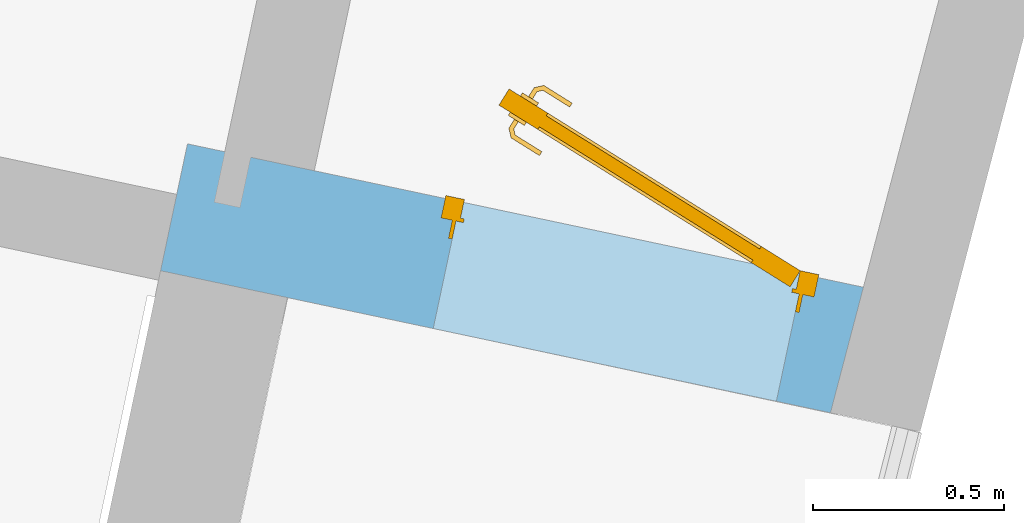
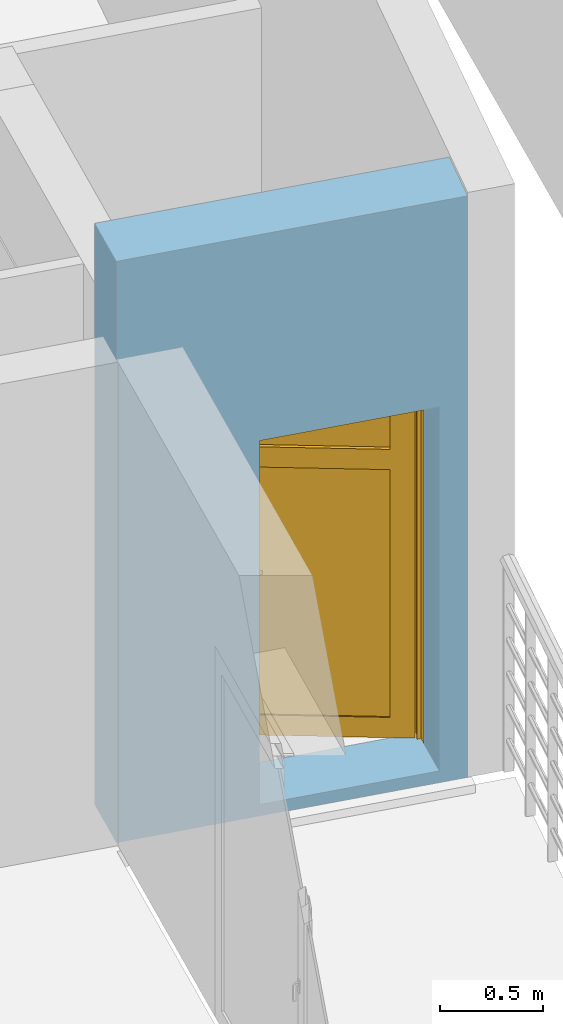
"""IFC2X3 building model written with IfcOpenShell, lengths in metres."""

from ifc_helpers import new_model, entity, si_unit, converted_unit, derived_unit, direction, frame, origin, place, context, subcontext, project, spatial, polyline, outline, extrude, faceted_brep, source, transform, mapped, material, material_list, layer, layer_set, layer_usage, type_object, type_shapes, element, fill, save


model = new_model("IFC2X3")

# Units and contexts
model_context = context("Model", 3, precision=1e-05, world=origin(), true_north=direction((6.12303176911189e-17, 1.0)))
body_context = subcontext(model_context, "Body", "Model", "MODEL_VIEW")
ifc_project = project(units=[si_unit("LENGTHUNIT", "METRE"), si_unit("AREAUNIT", "SQUARE_METRE"), si_unit("VOLUMEUNIT", "CUBIC_METRE"), converted_unit("PLANEANGLEUNIT", "DEGREE", entity("IfcRatioMeasure", 0.0174532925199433), si_unit("PLANEANGLEUNIT", "RADIAN"), dimensions=[0, 0, 0, 0, 0, 0, 0]), si_unit("MASSUNIT", "GRAM", prefix="KILO"), derived_unit("MASSDENSITYUNIT", [(si_unit("MASSUNIT", "GRAM", prefix="KILO"), 1), (si_unit("LENGTHUNIT", "METRE"), -3)]), si_unit("TIMEUNIT", "SECOND"), si_unit("FREQUENCYUNIT", "HERTZ"), si_unit("THERMODYNAMICTEMPERATUREUNIT", "DEGREE_CELSIUS"), derived_unit("THERMALTRANSMITTANCEUNIT", [(si_unit("MASSUNIT", "GRAM", prefix="KILO"), 1), (si_unit("THERMODYNAMICTEMPERATUREUNIT", "KELVIN"), -1), (si_unit("TIMEUNIT", "SECOND"), -3)]), derived_unit("VOLUMETRICFLOWRATEUNIT", [(si_unit("LENGTHUNIT", "METRE"), 3), (si_unit("TIMEUNIT", "SECOND"), -1)]), si_unit("ELECTRICCURRENTUNIT", "AMPERE"), si_unit("ELECTRICVOLTAGEUNIT", "VOLT"), si_unit("POWERUNIT", "WATT"), si_unit("FORCEUNIT", "NEWTON", prefix="KILO"), si_unit("ILLUMINANCEUNIT", "LUX"), si_unit("LUMINOUSFLUXUNIT", "LUMEN"), si_unit("LUMINOUSINTENSITYUNIT", "CANDELA"), derived_unit("USERDEFINED", [(si_unit("MASSUNIT", "GRAM", prefix="KILO"), -1), (si_unit("LENGTHUNIT", "METRE"), -2), (si_unit("TIMEUNIT", "SECOND"), 3), (si_unit("LUMINOUSFLUXUNIT", "LUMEN"), 1)]), derived_unit("LINEARVELOCITYUNIT", [(si_unit("LENGTHUNIT", "METRE"), 1), (si_unit("TIMEUNIT", "SECOND"), -1)]), si_unit("PRESSUREUNIT", "PASCAL"), derived_unit("USERDEFINED", [(si_unit("LENGTHUNIT", "METRE"), -2), (si_unit("MASSUNIT", "GRAM", prefix="KILO"), 1), (si_unit("TIMEUNIT", "SECOND"), -2)])], contexts=[model_context])

# Site, building, storey
site_placement = place(None, origin())
site = spatial("IfcSite", under=ifc_project, at=site_placement, Name="Default", CompositionType="ELEMENT")
building_placement = place(site_placement, origin())
building = spatial("IfcBuilding", under=site, at=building_placement, CompositionType="ELEMENT")
storey_1_placement = place(building_placement, frame((0.0, 0.0, -0.0686871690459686)))
storey_1 = spatial("IfcBuildingStorey", under=building, at=storey_1_placement, Name="RDC", CompositionType="ELEMENT", Elevation=-0.0686871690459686)

# Wall, opening
ifc_material_1 = material(Name="Enduit blanc cassé2")
ifc_layer_1 = layer(ifc_material_1, 0.02)
ifc_material_2 = material(Name="Parpaing")
ifc_layer_2 = layer(ifc_material_2, 0.2)
ifc_material_3 = material(Name="Isolant")
ifc_layer_3 = layer(ifc_material_3, 0.12)
ifc_layer_set = layer_set([ifc_layer_1, ifc_layer_2, ifc_layer_3], Name="Mur de base:Ext. Parpaing 20 + Isolant 12 enduit blanc cassé 2")
ifc_layer_usage = layer_usage(ifc_layer_set, "AXIS2", "POSITIVE", -0.17)
wall_type = type_object("IfcWallType", Name="Mur de base:Ext. Parpaing 20 + Isolant 12 enduit blanc cassé 2", PredefinedType="STANDARD", material=ifc_layer_set)
wall_placement = place(storey_1_placement, frame((-10.9003478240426, 79.0485786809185, 0.0), z_axis=(0.0, 0.0, 1.0), x_axis=(0.978238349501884, -0.207484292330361, 0.0)))
wall = element("IfcWallStandardCase", 1, at=wall_placement, inside=storey_1, type_object=wall_type, material=ifc_layer_usage, Name="Mur de base:Ext. Parpaing 20 + Isolant 12 enduit blanc cassé 2", ObjectType="Mur de base:Ext. Parpaing 20 + Isolant 12 enduit blanc cassé 2", context=body_context, shape_type="SweptSolid", body=[
    extrude(outline(polyline([(1.79590606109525, -0.169999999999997), (1.81218239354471, 0.169999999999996), (0.340000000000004, 0.169999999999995), (0.169999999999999, 0.170000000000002), (0.0, 0.17000000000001), (0.0, 0.0345778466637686), (0.0, -0.17000000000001), (0.34, -0.170000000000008), (1.79590606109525, -0.169999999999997)])), origin(), (0.0, 0.0, 1.0), 3.44868716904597),
])
opening_placement = place(wall_placement, frame((0.770512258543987, -0.656731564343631, 0.0686871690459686), z_axis=(0.0, 0.0, 1.0), x_axis=(0.978238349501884, 0.207484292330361, 0.0)))
opening = element("IfcOpeningElement", 2, at=opening_placement, cuts=wall, Name="Mur de base:Ext. Parpaing 20 + Isolant 12 enduit blanc cassé 2", ObjectType="Opening", context=body_context, shape_type="Brep", body=[
    faceted_brep([(1.09501451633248, 0.919544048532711, 2.15999999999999), (0.195035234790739, 1.11042959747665, 2.15999999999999), (0.134449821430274, 0.824783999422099, 2.15999999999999), (1.03442910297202, 0.633898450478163, 2.15999999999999), (0.899979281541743, 0.0, 0.0), (0.0, 0.190885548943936, 0.0), (0.112041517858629, 0.71913425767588, 0.0), (0.10225913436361, 0.721209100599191, 0.0), (0.112218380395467, 0.768164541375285, 0.0), (0.0828712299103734, 0.774389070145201, 0.0), (0.0953202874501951, 0.833083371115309, 0.0), (0.134449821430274, 0.824783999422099, 0.0), (0.195035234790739, 1.11042959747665, 0.0), (1.09501451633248, 0.919544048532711, 0.0), (1.03442910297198, 0.633898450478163, 0.0), (1.07355863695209, 0.625599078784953, 0.0), (1.06110957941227, 0.566904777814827, 0.0), (1.03176242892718, 0.573129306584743, 0.0), (1.02180318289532, 0.526173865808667, 0.0), (1.01202079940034, 0.528248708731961, 0.0), (0.899979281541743, 0.0, 2.15999999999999), (0.0, 0.190885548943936, 2.15999999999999), (0.112041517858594, 0.719134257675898, 2.15999999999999), (0.112218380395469, 0.768164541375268, 2.16999999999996), (1.03176242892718, 0.573129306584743, 2.16999999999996), (1.06110957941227, 0.566904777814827, 2.2), (0.0828712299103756, 0.774389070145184, 2.2), (0.102259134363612, 0.721209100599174, 2.16999999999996), (1.01202079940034, 0.528248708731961, 2.15999999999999), (1.02180318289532, 0.52617386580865, 2.16999999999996), (0.0953202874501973, 0.833083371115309, 2.2), (1.0735586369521, 0.625599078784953, 2.2)], [[[0, 1, 2, 3]], [[4, 5, 6, 7, 8, 9, 10, 11, 12, 13, 14, 15, 16, 17, 18, 19]], [[13, 0, 3, 14]], [[20, 21, 5, 4]], [[5, 21, 22, 6]], [[1, 0, 13, 12]], [[9, 8, 23, 24, 17, 16, 25, 26]], [[8, 7, 27, 23]], [[7, 6, 22, 28, 19, 18, 29, 27]], [[11, 10, 30, 31, 15, 14, 3, 2]], [[10, 9, 26, 30]], [[24, 23, 27, 29]], [[26, 25, 31, 30]], [[17, 24, 29, 18]], [[25, 16, 15, 31]], [[1, 12, 11, 2]], [[20, 4, 19, 28]], [[21, 20, 28, 22]]]),
])

# Storey
storey_2_placement = place(building_placement, origin())
storey_2 = spatial("IfcBuildingStorey", under=building, at=storey_2_placement, Name="Plan des fondations  Maisons 1 et 2", CompositionType="ELEMENT", Elevation=0.0)

# Door
ifc_material_4 = material(Name="PVC - Blanc")
ifc_material_5 = material(Name="Verre")
ifc_material_list_1 = material_list([ifc_material_4, ifc_material_5])
ifc_material_list_2 = material_list([ifc_material_4, ifc_material_5])
door_style = type_object("IfcDoorStyle", Name="PP Oculus haut (0.90m x 2.15m)", ConstructionType="NOTDEFINED", OperationType="SINGLE_SWING_RIGHT", ParameterTakesPrecedence=False, Sizeable=False, material=ifc_material_list_2)
shared_shape = source(origin(), body_context, "Body", "Brep", [
    faceted_brep([(0.839310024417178, 0.35735227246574, 0.982322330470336), (0.844175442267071, 0.355581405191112, 0.978349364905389), (0.849841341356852, 0.353519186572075, 0.975851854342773), (0.855921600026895, 0.351306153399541, 0.975), (0.862001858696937, 0.349093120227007, 0.975851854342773), (0.867667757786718, 0.34703090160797, 0.978349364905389), (0.872533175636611, 0.345260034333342, 0.982322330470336), (0.876266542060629, 0.34390120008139, 0.9875), (0.878613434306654, 0.343047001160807, 0.993529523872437), (0.879413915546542, 0.342755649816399, 1.0), (0.878613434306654, 0.343047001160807, 1.00647047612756), (0.876266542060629, 0.343901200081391, 1.0125), (0.872533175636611, 0.345260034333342, 1.01767766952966), (0.867667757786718, 0.34703090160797, 1.02165063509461), (0.862001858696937, 0.349093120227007, 1.02414814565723), (0.855921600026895, 0.351306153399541, 1.025), (0.849841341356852, 0.353519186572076, 1.02414814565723), (0.844175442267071, 0.355581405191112, 1.02165063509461), (0.839310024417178, 0.35735227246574, 1.01767766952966), (0.83557665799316, 0.358711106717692, 1.0125), (0.833229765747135, 0.359565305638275, 1.00647047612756), (0.832429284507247, 0.359856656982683, 1.0), (0.833229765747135, 0.359565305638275, 0.993529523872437), (0.83557665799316, 0.358711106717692, 0.9875), (0.859341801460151, 0.3607030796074, 1.025), (0.865422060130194, 0.358490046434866, 1.02414814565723), (0.871087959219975, 0.356427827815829, 1.02165063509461), (0.875953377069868, 0.354656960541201, 1.01767766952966), (0.879686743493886, 0.35329812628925, 1.0125), (0.88203363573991, 0.352443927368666, 1.00647047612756), (0.882834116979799, 0.352152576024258, 1.0), (0.882033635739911, 0.352443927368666, 0.993529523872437), (0.879686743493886, 0.35329812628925, 0.9875), (0.875953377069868, 0.354656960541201, 0.982322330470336), (0.871087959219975, 0.356427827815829, 0.978349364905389), (0.865422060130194, 0.358490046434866, 0.975851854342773), (0.859341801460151, 0.3607030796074, 0.975), (0.853261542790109, 0.362916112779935, 0.975851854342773), (0.847595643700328, 0.364978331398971, 0.978349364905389), (0.842730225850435, 0.3667491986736, 0.982322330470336), (0.838996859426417, 0.368108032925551, 0.9875), (0.836649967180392, 0.368962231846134, 0.993529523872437), (0.835849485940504, 0.369253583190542, 1.0), (0.836649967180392, 0.368962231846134, 1.00647047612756), (0.838996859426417, 0.368108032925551, 1.0125), (0.842730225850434, 0.3667491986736, 1.01767766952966), (0.847595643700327, 0.364978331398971, 1.02165063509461), (0.853261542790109, 0.362916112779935, 1.02414814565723)], [[[0, 1, 2, 3, 4, 5, 6, 7, 8, 9, 10, 11, 12, 13, 14, 15, 16, 17, 18, 19, 20, 21, 22, 23]], [[24, 25, 26, 27, 28, 29, 30, 31, 32, 33, 34, 35, 36, 37, 38, 39, 40, 41, 42, 43, 44, 45, 46, 47]], [[30, 9, 8, 31]], [[31, 8, 7, 32]], [[34, 33, 6, 5]], [[6, 33, 32, 7]], [[35, 34, 5, 4]], [[35, 4, 3, 36]], [[36, 3, 2, 37]], [[37, 2, 1, 38]], [[40, 39, 0, 23]], [[0, 39, 38, 1]], [[41, 40, 23, 22]], [[41, 22, 21, 42]], [[42, 21, 20, 43]], [[43, 20, 19, 44]], [[46, 45, 18, 17]], [[18, 45, 44, 19]], [[47, 46, 17, 16]], [[47, 16, 15, 24]], [[24, 15, 14, 25]], [[25, 14, 13, 26]], [[28, 27, 12, 11]], [[12, 27, 26, 13]], [[29, 28, 11, 10]], [[29, 10, 9, 30]]]),
    faceted_brep([(0.859831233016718, 0.413733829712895, 0.982322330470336), (0.864696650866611, 0.411962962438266, 0.978349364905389), (0.870362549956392, 0.40990074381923, 0.975851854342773), (0.876442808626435, 0.407687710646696, 0.975), (0.882523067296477, 0.405474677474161, 0.975851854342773), (0.888188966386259, 0.403412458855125, 0.978349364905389), (0.893054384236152, 0.401641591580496, 0.982322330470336), (0.896787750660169, 0.400282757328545, 0.9875), (0.899134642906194, 0.399428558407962, 0.993529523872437), (0.899935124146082, 0.399137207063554, 1.0), (0.899134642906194, 0.399428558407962, 1.00647047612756), (0.896787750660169, 0.400282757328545, 1.0125), (0.893054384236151, 0.401641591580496, 1.01767766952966), (0.888188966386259, 0.403412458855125, 1.02165063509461), (0.882523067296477, 0.405474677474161, 1.02414814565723), (0.876442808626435, 0.407687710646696, 1.025), (0.870362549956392, 0.40990074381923, 1.02414814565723), (0.864696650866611, 0.411962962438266, 1.02165063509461), (0.859831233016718, 0.413733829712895, 1.01767766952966), (0.8560978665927, 0.415092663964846, 1.0125), (0.853750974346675, 0.415946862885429, 1.00647047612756), (0.852950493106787, 0.416238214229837, 1.0), (0.853750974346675, 0.415946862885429, 0.993529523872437), (0.8560978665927, 0.415092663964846, 0.9875), (0.879863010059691, 0.417084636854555, 1.025), (0.885943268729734, 0.41487160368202, 1.02414814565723), (0.891609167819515, 0.412809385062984, 1.02165063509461), (0.896474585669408, 0.411038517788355, 1.01767766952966), (0.900207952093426, 0.409679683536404, 1.0125), (0.90255484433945, 0.408825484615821, 1.00647047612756), (0.903355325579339, 0.408534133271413, 1.0), (0.902554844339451, 0.408825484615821, 0.993529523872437), (0.900207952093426, 0.409679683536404, 0.9875), (0.896474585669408, 0.411038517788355, 0.982322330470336), (0.891609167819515, 0.412809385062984, 0.978349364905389), (0.885943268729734, 0.41487160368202, 0.975851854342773), (0.879863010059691, 0.417084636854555, 0.975), (0.873782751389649, 0.419297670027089, 0.975851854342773), (0.868116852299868, 0.421359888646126, 0.978349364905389), (0.863251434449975, 0.423130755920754, 0.982322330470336), (0.859518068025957, 0.424489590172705, 0.9875), (0.857171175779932, 0.425343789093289, 0.993529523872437), (0.856370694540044, 0.425635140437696, 1.0), (0.857171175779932, 0.425343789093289, 1.00647047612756), (0.859518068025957, 0.424489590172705, 1.0125), (0.863251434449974, 0.423130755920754, 1.01767766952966), (0.868116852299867, 0.421359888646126, 1.02165063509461), (0.873782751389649, 0.419297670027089, 1.02414814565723)], [[[0, 1, 2, 3, 4, 5, 6, 7, 8, 9, 10, 11, 12, 13, 14, 15, 16, 17, 18, 19, 20, 21, 22, 23]], [[24, 25, 26, 27, 28, 29, 30, 31, 32, 33, 34, 35, 36, 37, 38, 39, 40, 41, 42, 43, 44, 45, 46, 47]], [[30, 9, 8, 31]], [[31, 8, 7, 32]], [[34, 33, 6, 5]], [[6, 33, 32, 7]], [[35, 34, 5, 4]], [[35, 4, 3, 36]], [[36, 3, 2, 37]], [[37, 2, 1, 38]], [[40, 39, 0, 23]], [[0, 39, 38, 1]], [[41, 40, 23, 22]], [[41, 22, 21, 42]], [[42, 21, 20, 43]], [[43, 20, 19, 44]], [[46, 45, 18, 17]], [[18, 45, 44, 19]], [[47, 46, 17, 16]], [[47, 16, 15, 24]], [[24, 15, 14, 25]], [[25, 14, 13, 26]], [[28, 27, 12, 11]], [[12, 27, 26, 13]], [[29, 28, 11, 10]], [[29, 10, 9, 30]]]),
    faceted_brep([(0.854018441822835, 0.351998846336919, 1.00778044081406), (0.857824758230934, 0.350613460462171, 1.00778044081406), (0.861559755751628, 0.349254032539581, 1.00699999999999), (0.861559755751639, 0.349254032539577, 0.992999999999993), (0.857824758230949, 0.350613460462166, 0.992219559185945), (0.85401844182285, 0.351998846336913, 0.992219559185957), (0.850283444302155, 0.353358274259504, 0.993000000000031), (0.850283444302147, 0.353358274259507, 1.007), (0.848930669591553, 0.326177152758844, 1.00778044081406), (0.852102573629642, 0.323270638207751, 1.007), (0.845698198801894, 0.329139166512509, 1.00778044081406), (0.828169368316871, 0.320965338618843, 1.00778044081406), (0.828360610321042, 0.316585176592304, 1.00778044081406), (0.842526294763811, 0.332045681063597, 1.007), (0.842526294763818, 0.332045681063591, 0.993000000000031), (0.845698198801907, 0.329139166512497, 0.992219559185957), (0.848930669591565, 0.326177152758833, 0.992219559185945), (0.828360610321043, 0.316585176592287, 0.992219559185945), (0.828169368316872, 0.320965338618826, 0.992219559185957), (0.852102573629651, 0.323270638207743, 0.992999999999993), (0.828548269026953, 0.312287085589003, 1.007), (0.827981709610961, 0.325263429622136, 1.007), (0.827981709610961, 0.325263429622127, 0.993000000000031), (0.828548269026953, 0.312287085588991, 0.992999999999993), (0.746192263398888, 0.342262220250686, 1.007), (0.747551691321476, 0.345997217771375, 1.00778044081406), (0.748937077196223, 0.349803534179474, 1.00778044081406), (0.750296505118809, 0.353538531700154, 1.007), (0.750296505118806, 0.353538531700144, 0.993000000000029), (0.748937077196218, 0.349803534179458, 0.992219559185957), (0.747551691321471, 0.34599721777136, 0.992219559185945), (0.746192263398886, 0.34226222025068, 0.992999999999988), (0.787860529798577, 0.333481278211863, 1.0078786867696), (0.791025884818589, 0.325944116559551, 1.007), (0.789139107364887, 0.339400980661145, 1.007), (0.789139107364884, 0.33940098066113, 0.993000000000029), (0.787860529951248, 0.333481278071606, 0.992121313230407), (0.791025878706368, 0.325944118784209, 0.992999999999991)], [[[0, 1, 2, 3, 4, 5, 6, 7]], [[2, 1, 8, 9]], [[1, 0, 10, 11, 12, 8]], [[0, 7, 13, 10]], [[14, 13, 7, 6]], [[5, 15, 14, 6]], [[5, 4, 16, 17, 18, 15]], [[3, 19, 16, 4]], [[9, 19, 3, 2]], [[9, 8, 12, 20]], [[10, 13, 21, 11]], [[22, 21, 13, 14]], [[14, 15, 18, 22]], [[16, 19, 23, 17]], [[20, 23, 19, 9]], [[24, 25, 26, 27, 28, 29, 30, 31]], [[32, 25, 33]], [[33, 25, 24]], [[33, 20, 12]], [[11, 34, 32]], [[34, 11, 21]], [[27, 26, 34]], [[32, 26, 25]], [[32, 34, 26]], [[32, 33, 12]], [[11, 32, 12]], [[21, 22, 35, 28, 27, 34]], [[36, 29, 35]], [[30, 36, 37]], [[18, 35, 22]], [[29, 28, 35]], [[30, 37, 31]], [[37, 17, 23]], [[36, 17, 37]], [[36, 18, 17]], [[36, 35, 18]], [[29, 36, 30]], [[23, 20, 33, 24, 31, 37]]]),
    faceted_brep([(0.877959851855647, 0.417777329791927, 0.992219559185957), (0.881766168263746, 0.416391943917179, 0.992219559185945), (0.885501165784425, 0.415032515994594, 0.99299999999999), (0.885501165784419, 0.415032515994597, 1.007), (0.881766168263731, 0.416391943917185, 1.00778044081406), (0.877959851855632, 0.417777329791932, 1.00778044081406), (0.874224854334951, 0.419136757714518, 1.007), (0.874224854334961, 0.419136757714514, 0.993000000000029), (0.881915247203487, 0.440265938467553, 1.007), (0.881915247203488, 0.440265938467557, 0.993000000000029), (0.886213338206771, 0.440453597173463, 1.00778044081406), (0.89059350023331, 0.440644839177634, 1.00778044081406), (0.880919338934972, 0.461391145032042, 1.00778044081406), (0.877957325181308, 0.458158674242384, 1.00778044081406), (0.894891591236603, 0.440832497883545, 1.007), (0.89489159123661, 0.440832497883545, 0.99299999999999), (0.890593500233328, 0.440644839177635, 0.992219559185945), (0.886213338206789, 0.440453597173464, 0.992219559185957), (0.87795732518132, 0.458158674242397, 0.992219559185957), (0.880919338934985, 0.461391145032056, 0.992219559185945), (0.875050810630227, 0.454986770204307, 1.007), (0.875050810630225, 0.454986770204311, 0.993000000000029), (0.88382585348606, 0.464563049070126, 1.007), (0.883825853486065, 0.464563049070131, 0.99299999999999), (0.798828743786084, 0.486959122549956, 1.00778044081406), (0.800214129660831, 0.490765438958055, 1.00778044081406), (0.801573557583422, 0.494500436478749, 1.007), (0.801573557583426, 0.494500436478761, 0.992999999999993), (0.800214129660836, 0.490765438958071, 0.992219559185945), (0.798828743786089, 0.486959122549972, 0.992219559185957), (0.797469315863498, 0.483224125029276, 0.993000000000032), (0.797469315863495, 0.483224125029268, 1.007), (0.836260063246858, 0.469105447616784, 1.007), (0.83626005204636, 0.469105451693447, 0.99300000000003), (0.839085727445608, 0.474462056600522, 1.0078786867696), (0.846303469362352, 0.478220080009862, 1.007), (0.846303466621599, 0.478220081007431, 0.992999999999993), (0.839085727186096, 0.474462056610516, 0.992121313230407)], [[[0, 1, 2, 3, 4, 5, 6, 7]], [[8, 9, 7, 6]], [[5, 10, 8, 6]], [[5, 4, 11, 12, 13, 10]], [[3, 14, 11, 4]], [[14, 3, 2, 15]], [[2, 1, 16, 15]], [[1, 0, 17, 18, 19, 16]], [[0, 7, 9, 17]], [[20, 21, 9, 8]], [[8, 10, 13, 20]], [[14, 22, 12, 11]], [[23, 22, 14, 15]], [[15, 16, 19, 23]], [[17, 9, 21, 18]], [[24, 25, 26, 27, 28, 29, 30, 31]], [[20, 32, 31, 30, 33, 21]], [[34, 24, 32]], [[25, 34, 35]], [[13, 32, 20]], [[24, 31, 32]], [[25, 35, 26]], [[35, 12, 22]], [[34, 12, 35]], [[34, 13, 12]], [[34, 32, 13]], [[24, 34, 25]], [[22, 23, 36, 27, 26, 35]], [[37, 28, 36]], [[36, 28, 27]], [[36, 23, 19]], [[18, 33, 37]], [[33, 18, 21]], [[30, 29, 33]], [[37, 29, 28]], [[37, 33, 29]], [[37, 36, 19]], [[18, 37, 19]]]),
    faceted_brep([(0.193023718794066, 0.635148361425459, 2.03), (0.813220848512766, 0.409415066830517, 2.03), (0.813220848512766, 0.409415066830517, 1.71), (0.193023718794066, 0.635148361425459, 1.71), (0.189603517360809, 0.6257514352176, 2.03), (0.189603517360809, 0.6257514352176, 1.71), (0.809800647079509, 0.400018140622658, 1.71), (0.809800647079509, 0.400018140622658, 2.03)], [[[0, 1, 2, 3]], [[4, 5, 6, 7]], [[3, 5, 4, 0]], [[2, 6, 5, 3]], [[1, 7, 6, 2]], [[0, 4, 7, 1]]]),
    faceted_brep([(0.932824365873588, 0.387166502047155, 2.15), (0.932824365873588, 0.387166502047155, 0.0), (0.0871010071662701, 0.694984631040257, 0.0), (0.0871010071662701, 0.694984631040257, 2.15), (0.199864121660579, 0.653942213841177, 2.03), (0.199864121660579, 0.653942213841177, 1.71), (0.820061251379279, 0.428208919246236, 1.71), (0.820061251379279, 0.428208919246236, 2.03), (0.82006125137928, 0.428208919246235, 1.59), (0.199864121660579, 0.653942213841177, 1.59), (0.199864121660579, 0.653942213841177, 0.12), (0.820061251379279, 0.428208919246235, 0.12), (0.915723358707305, 0.34018187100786, 2.15), (0.0699999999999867, 0.648000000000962, 2.15), (0.0699999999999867, 0.648000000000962, 0.0), (0.915723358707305, 0.34018187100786, 0.0), (0.182763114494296, 0.606957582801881, 2.03), (0.802960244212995, 0.38122428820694, 2.03), (0.802960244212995, 0.38122428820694, 1.71), (0.182763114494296, 0.606957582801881, 1.71), (0.182763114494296, 0.606957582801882, 1.59), (0.802960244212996, 0.38122428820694, 1.59), (0.802960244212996, 0.38122428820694, 0.12), (0.182763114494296, 0.606957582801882, 0.12), (0.185499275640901, 0.614475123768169, 1.59), (0.185499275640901, 0.614475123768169, 0.12), (0.805696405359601, 0.388741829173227, 0.12), (0.805696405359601, 0.388741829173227, 1.59), (0.817325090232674, 0.420691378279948, 1.59), (0.817325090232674, 0.420691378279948, 0.12), (0.197127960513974, 0.64642467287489, 0.12), (0.197127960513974, 0.64642467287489, 1.59)], [[[0, 1, 2, 3], [4, 5, 6, 7], [8, 9, 10, 11]], [[12, 13, 14, 15], [16, 17, 18, 19], [20, 21, 22, 23]], [[3, 13, 12, 0]], [[2, 14, 13, 3]], [[1, 15, 14, 2]], [[0, 12, 15, 1]], [[7, 17, 16, 4]], [[6, 18, 17, 7]], [[5, 19, 18, 6]], [[4, 16, 19, 5]], [[24, 25, 26, 27]], [[24, 20, 23, 25]], [[25, 23, 22, 26]], [[26, 22, 21, 27]], [[27, 21, 20, 24]], [[28, 29, 30, 31]], [[28, 8, 11, 29]], [[29, 11, 10, 30]], [[30, 10, 9, 31]], [[31, 9, 8, 28]]]),
    faceted_brep([(1.01999999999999, 0.708000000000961, 0.0), (1.01999999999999, 0.648000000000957, 0.0), (0.969999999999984, 0.648000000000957, 0.0), (0.969999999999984, 0.698000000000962, 0.0), (0.959999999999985, 0.698000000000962, 0.0), (0.959999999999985, 0.708000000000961, 0.0), (0.979999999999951, 0.708000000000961, 0.0), (0.979999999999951, 0.756000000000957, 0.0), (0.989999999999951, 0.756000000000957, 0.0), (0.989999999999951, 0.708000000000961, 0.0), (0.989999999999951, 0.708000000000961, 2.17), (0.0499999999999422, 0.708000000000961, 2.17), (0.0499999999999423, 0.708000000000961, 0.0), (0.0199999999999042, 0.708000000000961, 0.0), (0.0199999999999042, 0.708000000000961, 2.20000000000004), (1.01999999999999, 0.708000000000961, 2.20000000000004), (0.989999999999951, 0.756000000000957, 2.17), (0.979999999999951, 0.756000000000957, 2.16), (0.0599999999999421, 0.756000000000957, 2.16), (0.0599999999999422, 0.756000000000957, 0.0), (0.0499999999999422, 0.756000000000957, 0.0), (0.0499999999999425, 0.756000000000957, 2.17), (0.979999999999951, 0.708000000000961, 2.16), (0.959999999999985, 0.708000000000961, 2.14000000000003), (0.0799999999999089, 0.708000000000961, 2.14000000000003), (0.0799999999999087, 0.708000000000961, 0.0), (0.0599999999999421, 0.708000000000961, 0.0), (0.0599999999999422, 0.708000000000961, 2.16), (0.959999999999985, 0.698000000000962, 2.14000000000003), (0.969999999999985, 0.698000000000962, 2.15000000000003), (0.0699999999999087, 0.698000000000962, 2.15000000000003), (0.0699999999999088, 0.698000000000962, 0.0), (0.0799999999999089, 0.698000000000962, 0.0), (0.0799999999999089, 0.698000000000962, 2.14000000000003), (0.969999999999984, 0.648000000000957, 2.15000000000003), (1.01999999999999, 0.648000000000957, 2.20000000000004), (0.0199999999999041, 0.648000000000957, 2.20000000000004), (0.019999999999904, 0.648000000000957, 0.0), (0.0699999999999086, 0.648000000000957, 0.0), (0.0699999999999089, 0.648000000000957, 2.15000000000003)], [[[0, 1, 2, 3, 4, 5, 6, 7, 8, 9]], [[9, 10, 11, 12, 13, 14, 15, 0]], [[8, 16, 10, 9]], [[7, 17, 18, 19, 20, 21, 16, 8]], [[6, 22, 17, 7]], [[5, 23, 24, 25, 26, 27, 22, 6]], [[4, 28, 23, 5]], [[3, 29, 30, 31, 32, 33, 28, 4]], [[2, 34, 29, 3]], [[1, 35, 36, 37, 38, 39, 34, 2]], [[0, 15, 35, 1]], [[16, 21, 11, 10]], [[22, 27, 18, 17]], [[28, 33, 24, 23]], [[34, 39, 30, 29]], [[15, 14, 36, 35]], [[13, 12, 20, 19, 26, 25, 32, 31, 38, 37]], [[21, 20, 12, 11]], [[27, 26, 19, 18]], [[33, 32, 25, 24]], [[39, 38, 31, 30]], [[14, 13, 37, 36]]]),
])
type_shapes(door_style, [shared_shape])
door_placement = place(opening_placement, frame((1.22757322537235, 1.25534784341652, 0.0), z_axis=(0.0, 0.0, 1.0), x_axis=(-0.978238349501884, 0.207484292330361, 0.0)))
door = element("IfcDoor", 3, at=door_placement, inside=storey_2, type_object=door_style, material=ifc_material_list_1, Name="Ext. Simple:PP Oculus haut (0.90m x 2.15m)", ObjectType="Ext. Simple:PP Oculus haut (0.90m x 2.15m)", OverallHeight=2.20000000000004, OverallWidth=1.00000000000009, context=body_context, shape_type="MappedRepresentation", body=[
    mapped(shared_shape, transform((0.0, 0.0, 0.0), scale=1.0)),
])

fill(opening, door)

save(model, "model.ifc")
